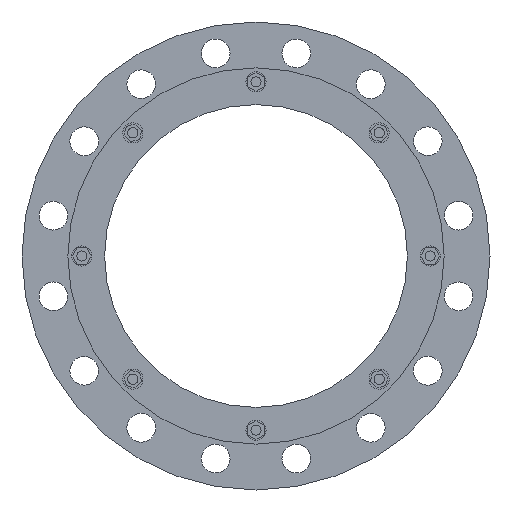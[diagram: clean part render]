
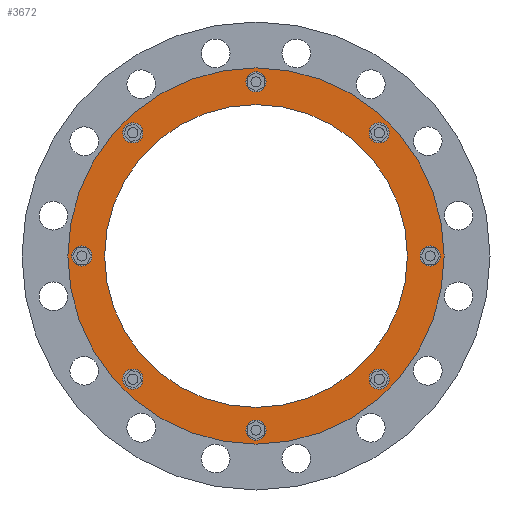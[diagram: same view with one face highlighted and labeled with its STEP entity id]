
A CAD part, front view. The second image highlights one B-rep face of the part: STEP entity #3672.
In plain terms, the highlighted planar face has unit normal (0, -1, 0).
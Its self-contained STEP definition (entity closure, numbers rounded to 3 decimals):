
#911=CARTESIAN_POINT('',(0.,-92.452,0.));
#912=DIRECTION('',(0.,-1.,0.));
#913=DIRECTION('',(1.,0.,0.));
#914=AXIS2_PLACEMENT_3D('',#911,#912,#913);
#916=CARTESIAN_POINT('',(0.,-92.452,0.));
#917=DIRECTION('',(0.,1.,0.));
#918=DIRECTION('',(1.,0.,0.));
#919=AXIS2_PLACEMENT_3D('',#916,#917,#918);
#921=CARTESIAN_POINT('',(206.5,-92.452,0.));
#922=DIRECTION('',(0.,-1.,0.));
#923=DIRECTION('',(0.,0.,-1.));
#924=AXIS2_PLACEMENT_3D('',#921,#922,#923);
#926=CARTESIAN_POINT('',(206.5,-92.452,0.));
#927=DIRECTION('',(0.,-1.,0.));
#928=DIRECTION('',(0.,0.,1.));
#929=AXIS2_PLACEMENT_3D('',#926,#927,#928);
#931=CARTESIAN_POINT('',(146.018,-92.452,146.018));
#932=DIRECTION('',(0.,-1.,0.));
#933=DIRECTION('',(0.707,0.,-0.707));
#934=AXIS2_PLACEMENT_3D('',#931,#932,#933);
#936=CARTESIAN_POINT('',(146.018,-92.452,146.018));
#937=DIRECTION('',(0.,-1.,0.));
#938=DIRECTION('',(-0.707,0.,0.707));
#939=AXIS2_PLACEMENT_3D('',#936,#937,#938);
#941=CARTESIAN_POINT('',(0.,-92.452,206.5));
#942=DIRECTION('',(0.,-1.,0.));
#943=DIRECTION('',(1.,0.,0.));
#944=AXIS2_PLACEMENT_3D('',#941,#942,#943);
#946=CARTESIAN_POINT('',(0.,-92.452,206.5));
#947=DIRECTION('',(0.,-1.,0.));
#948=DIRECTION('',(-1.,0.,0.));
#949=AXIS2_PLACEMENT_3D('',#946,#947,#948);
#951=CARTESIAN_POINT('',(-146.018,-92.452,146.018));
#952=DIRECTION('',(0.,-1.,0.));
#953=DIRECTION('',(0.707,0.,0.707));
#954=AXIS2_PLACEMENT_3D('',#951,#952,#953);
#956=CARTESIAN_POINT('',(-146.018,-92.452,146.018));
#957=DIRECTION('',(0.,-1.,0.));
#958=DIRECTION('',(-0.707,0.,-0.707));
#959=AXIS2_PLACEMENT_3D('',#956,#957,#958);
#961=CARTESIAN_POINT('',(-206.5,-92.452,0.));
#962=DIRECTION('',(0.,-1.,0.));
#963=DIRECTION('',(0.,0.,1.));
#964=AXIS2_PLACEMENT_3D('',#961,#962,#963);
#966=CARTESIAN_POINT('',(-206.5,-92.452,0.));
#967=DIRECTION('',(0.,-1.,0.));
#968=DIRECTION('',(0.,0.,-1.));
#969=AXIS2_PLACEMENT_3D('',#966,#967,#968);
#971=CARTESIAN_POINT('',(-146.018,-92.452,-146.018));
#972=DIRECTION('',(0.,-1.,0.));
#973=DIRECTION('',(-0.707,0.,0.707));
#974=AXIS2_PLACEMENT_3D('',#971,#972,#973);
#976=CARTESIAN_POINT('',(-146.018,-92.452,-146.018));
#977=DIRECTION('',(0.,-1.,0.));
#978=DIRECTION('',(0.707,0.,-0.707));
#979=AXIS2_PLACEMENT_3D('',#976,#977,#978);
#981=CARTESIAN_POINT('',(0.,-92.452,-206.5));
#982=DIRECTION('',(0.,-1.,0.));
#983=DIRECTION('',(-1.,0.,0.));
#984=AXIS2_PLACEMENT_3D('',#981,#982,#983);
#986=CARTESIAN_POINT('',(0.,-92.452,-206.5));
#987=DIRECTION('',(0.,-1.,0.));
#988=DIRECTION('',(1.,0.,0.));
#989=AXIS2_PLACEMENT_3D('',#986,#987,#988);
#991=CARTESIAN_POINT('',(146.018,-92.452,-146.018));
#992=DIRECTION('',(0.,-1.,0.));
#993=DIRECTION('',(-0.707,0.,-0.707));
#994=AXIS2_PLACEMENT_3D('',#991,#992,#993);
#996=CARTESIAN_POINT('',(146.018,-92.452,-146.018));
#997=DIRECTION('',(0.,-1.,0.));
#998=DIRECTION('',(0.707,0.,0.707));
#999=AXIS2_PLACEMENT_3D('',#996,#997,#998);
#1001=CARTESIAN_POINT('',(0.,-92.452,0.));
#1002=DIRECTION('',(0.,1.,0.));
#1003=DIRECTION('',(1.,0.,0.));
#1004=AXIS2_PLACEMENT_3D('',#1001,#1002,#1003);
#1014=CARTESIAN_POINT('',(0.,-92.452,0.));
#1015=DIRECTION('',(0.,-1.,0.));
#1016=DIRECTION('',(1.,0.,0.));
#1017=AXIS2_PLACEMENT_3D('',#1014,#1015,#1016);
#2385=CARTESIAN_POINT('',(223.1,-92.452,0.));
#2387=VERTEX_POINT('',#2385);
#2388=CARTESIAN_POINT('',(179.5,-92.452,0.));
#2390=VERTEX_POINT('',#2388);
#2397=CARTESIAN_POINT('',(-223.1,-92.452,0.));
#2399=VERTEX_POINT('',#2397);
#2400=CARTESIAN_POINT('',(-179.5,-92.452,0.));
#2402=VERTEX_POINT('',#2400);
#2439=CARTESIAN_POINT('',(206.5,-92.452,-12.));
#2440=CARTESIAN_POINT('',(206.5,-92.452,12.));
#2441=VERTEX_POINT('',#2439);
#2442=VERTEX_POINT('',#2440);
#2488=CARTESIAN_POINT('',(154.503,-92.452,137.532));
#2489=VERTEX_POINT('',#2488);
#2490=CARTESIAN_POINT('',(137.532,-92.452,154.503));
#2491=VERTEX_POINT('',#2490);
#2532=CARTESIAN_POINT('',(12.,-92.452,206.5));
#2533=VERTEX_POINT('',#2532);
#2534=CARTESIAN_POINT('',(-12.,-92.452,206.5));
#2535=VERTEX_POINT('',#2534);
#2576=CARTESIAN_POINT('',(-137.532,-92.452,154.503));
#2577=VERTEX_POINT('',#2576);
#2578=CARTESIAN_POINT('',(-154.503,-92.452,137.532));
#2579=VERTEX_POINT('',#2578);
#2620=CARTESIAN_POINT('',(-206.5,-92.452,12.));
#2621=VERTEX_POINT('',#2620);
#2622=CARTESIAN_POINT('',(-206.5,-92.452,-12.));
#2623=VERTEX_POINT('',#2622);
#2664=CARTESIAN_POINT('',(-154.503,-92.452,-137.532));
#2665=VERTEX_POINT('',#2664);
#2666=CARTESIAN_POINT('',(-137.532,-92.452,-154.503));
#2667=VERTEX_POINT('',#2666);
#2708=CARTESIAN_POINT('',(-12.,-92.452,-206.5));
#2709=VERTEX_POINT('',#2708);
#2710=CARTESIAN_POINT('',(12.,-92.452,-206.5));
#2711=VERTEX_POINT('',#2710);
#2752=CARTESIAN_POINT('',(137.532,-92.452,-154.503));
#2753=VERTEX_POINT('',#2752);
#2754=CARTESIAN_POINT('',(154.503,-92.452,-137.532));
#2755=VERTEX_POINT('',#2754);
#3609=CARTESIAN_POINT('',(0.,-92.452,0.));
#3610=DIRECTION('',(0.,1.,0.));
#3611=DIRECTION('',(-1.,0.,0.));
#3612=AXIS2_PLACEMENT_3D('',#3609,#3610,#3611);
#3613=PLANE('',#3612);
#3615=ORIENTED_EDGE('',*,*,#3614,.F.);
#3617=ORIENTED_EDGE('',*,*,#3616,.T.);
#3618=EDGE_LOOP('',(#3615,#3617));
#3619=FACE_OUTER_BOUND('',#3618,.F.);
#3621=ORIENTED_EDGE('',*,*,#3620,.F.);
#3623=ORIENTED_EDGE('',*,*,#3622,.T.);
#3624=EDGE_LOOP('',(#3621,#3623));
#3625=FACE_BOUND('',#3624,.F.);
#3627=ORIENTED_EDGE('',*,*,#3626,.T.);
#3629=ORIENTED_EDGE('',*,*,#3628,.T.);
#3630=EDGE_LOOP('',(#3627,#3629));
#3631=FACE_BOUND('',#3630,.F.);
#3633=ORIENTED_EDGE('',*,*,#3632,.T.);
#3635=ORIENTED_EDGE('',*,*,#3634,.T.);
#3636=EDGE_LOOP('',(#3633,#3635));
#3637=FACE_BOUND('',#3636,.F.);
#3639=ORIENTED_EDGE('',*,*,#3638,.T.);
#3641=ORIENTED_EDGE('',*,*,#3640,.T.);
#3642=EDGE_LOOP('',(#3639,#3641));
#3643=FACE_BOUND('',#3642,.F.);
#3645=ORIENTED_EDGE('',*,*,#3644,.T.);
#3647=ORIENTED_EDGE('',*,*,#3646,.T.);
#3648=EDGE_LOOP('',(#3645,#3647));
#3649=FACE_BOUND('',#3648,.F.);
#3651=ORIENTED_EDGE('',*,*,#3650,.T.);
#3653=ORIENTED_EDGE('',*,*,#3652,.T.);
#3654=EDGE_LOOP('',(#3651,#3653));
#3655=FACE_BOUND('',#3654,.F.);
#3657=ORIENTED_EDGE('',*,*,#3656,.T.);
#3659=ORIENTED_EDGE('',*,*,#3658,.T.);
#3660=EDGE_LOOP('',(#3657,#3659));
#3661=FACE_BOUND('',#3660,.F.);
#3662=ORIENTED_EDGE('',*,*,#3591,.T.);
#3663=ORIENTED_EDGE('',*,*,#3602,.T.);
#3664=EDGE_LOOP('',(#3662,#3663));
#3665=FACE_BOUND('',#3664,.F.);
#3667=ORIENTED_EDGE('',*,*,#3666,.T.);
#3669=ORIENTED_EDGE('',*,*,#3668,.T.);
#3670=EDGE_LOOP('',(#3667,#3669));
#3671=FACE_BOUND('',#3670,.F.);
#3672=ADVANCED_FACE('',(#3619,#3625,#3631,#3637,#3643,#3649,#3655,#3661,#3665,
#3671),#3613,.F.);
#915=CIRCLE('',#914,223.1);
#920=CIRCLE('',#919,223.1);
#925=CIRCLE('',#924,12.);
#930=CIRCLE('',#929,12.);
#935=CIRCLE('',#934,12.);
#940=CIRCLE('',#939,12.);
#945=CIRCLE('',#944,12.);
#950=CIRCLE('',#949,12.);
#955=CIRCLE('',#954,12.);
#960=CIRCLE('',#959,12.);
#965=CIRCLE('',#964,12.);
#970=CIRCLE('',#969,12.);
#975=CIRCLE('',#974,12.);
#980=CIRCLE('',#979,12.);
#985=CIRCLE('',#984,12.);
#990=CIRCLE('',#989,12.);
#995=CIRCLE('',#994,12.);
#1000=CIRCLE('',#999,12.);
#1005=CIRCLE('',#1004,179.5);
#1018=CIRCLE('',#1017,179.5);
#3591=EDGE_CURVE('',#2709,#2711,#985,.T.);
#3602=EDGE_CURVE('',#2711,#2709,#990,.T.);
#3614=EDGE_CURVE('',#2387,#2399,#915,.T.);
#3616=EDGE_CURVE('',#2387,#2399,#920,.T.);
#3620=EDGE_CURVE('',#2390,#2402,#1005,.T.);
#3622=EDGE_CURVE('',#2390,#2402,#1018,.T.);
#3626=EDGE_CURVE('',#2441,#2442,#925,.T.);
#3628=EDGE_CURVE('',#2442,#2441,#930,.T.);
#3632=EDGE_CURVE('',#2489,#2491,#935,.T.);
#3634=EDGE_CURVE('',#2491,#2489,#940,.T.);
#3638=EDGE_CURVE('',#2533,#2535,#945,.T.);
#3640=EDGE_CURVE('',#2535,#2533,#950,.T.);
#3644=EDGE_CURVE('',#2577,#2579,#955,.T.);
#3646=EDGE_CURVE('',#2579,#2577,#960,.T.);
#3650=EDGE_CURVE('',#2621,#2623,#965,.T.);
#3652=EDGE_CURVE('',#2623,#2621,#970,.T.);
#3656=EDGE_CURVE('',#2665,#2667,#975,.T.);
#3658=EDGE_CURVE('',#2667,#2665,#980,.T.);
#3666=EDGE_CURVE('',#2753,#2755,#995,.T.);
#3668=EDGE_CURVE('',#2755,#2753,#1000,.T.);
